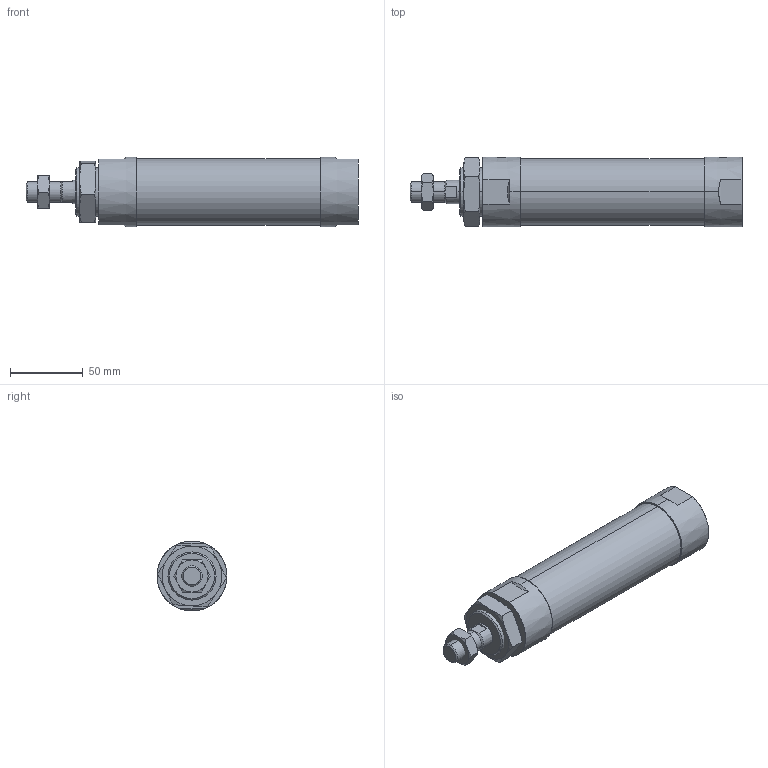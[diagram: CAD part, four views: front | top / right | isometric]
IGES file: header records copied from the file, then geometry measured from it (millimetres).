
Start section: SolidWorks IGES file using analytic representation for surfaces
Global section: file name: C:\Users\Toshiba\Desktop\JGND2-40-75-N.IGS; native system: SolidWorks 2014; preprocessor: SolidWorks 2014; author: Toshiba; date: 160804.110700; units: millimetre
Bounding box: 228 x 48 x 48 mm (x, y, z)
Surface area: 39677.9 mm2 (no closed solid volume)
Topology: 0 solids, 0 shells, 89 faces, 1702 edges, 1698 vertices
Faces by surface type: bspline 56, revolution 33
